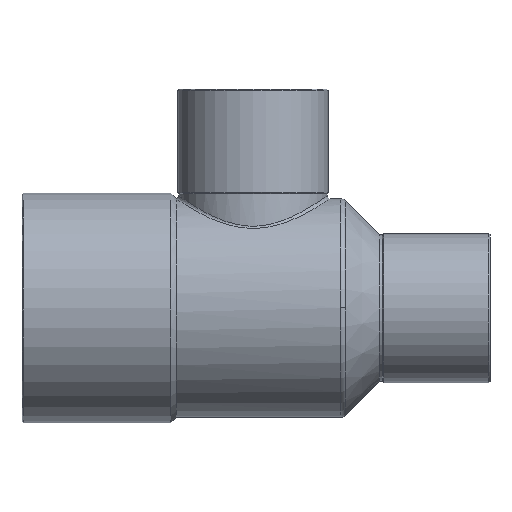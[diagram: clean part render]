
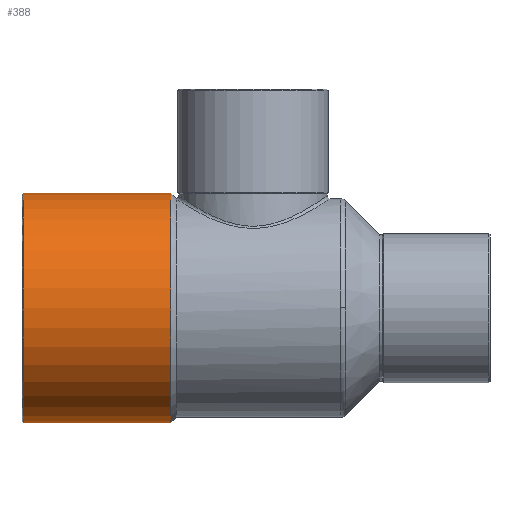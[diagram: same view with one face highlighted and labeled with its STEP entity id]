
A CAD part, top view. The second image highlights one B-rep face of the part: STEP entity #388.
In plain terms, the highlighted cylindrical face has radius 18.875 mm (diameter 37.75 mm), a partial arc.
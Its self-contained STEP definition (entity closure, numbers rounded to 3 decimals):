
#303=CARTESIAN_POINT('',(-13.503,18.875,0.0));
#304=VERTEX_POINT('',#303);
#313=CARTESIAN_POINT('',(-13.503,-18.875,0.));
#314=VERTEX_POINT('',#313);
#315=CARTESIAN_POINT('',(-13.503,0.0,0.0));
#316=DIRECTION('',(1.0,0.0,0.0));
#317=DIRECTION('',(0.0,1.0,0.0));
#318=AXIS2_PLACEMENT_3D('',#315,#316,#317);
#319=CIRCLE('',#318,18.875);
#320=EDGE_CURVE('',#304,#314,#319,.T.);
#357=CARTESIAN_POINT('',(-25.751,0.0,0.0));
#358=DIRECTION('',(1.0,0.0,0.0));
#359=DIRECTION('',(0.0,1.0,0.0));
#360=AXIS2_PLACEMENT_3D('',#357,#358,#359);
#361=CYLINDRICAL_SURFACE('',#360,18.875);
#362=CARTESIAN_POINT('',(-37.8,18.875,0.));
#363=VERTEX_POINT('',#362);
#364=CARTESIAN_POINT('',(-37.8,18.875,0.));
#365=DIRECTION('',(1.0,0.0,0.0));
#366=VECTOR('',#365,24.297);
#367=LINE('',#364,#366);
#368=EDGE_CURVE('',#363,#304,#367,.T.);
#369=ORIENTED_EDGE('',*,*,#368,.F.);
#370=CARTESIAN_POINT('',(-37.8,-18.875,0.));
#371=VERTEX_POINT('',#370);
#372=CARTESIAN_POINT('',(-37.8,0.0,0.0));
#373=DIRECTION('',(-1.0,0.0,0.0));
#374=DIRECTION('',(0.0,-1.0,0.0));
#375=AXIS2_PLACEMENT_3D('',#372,#373,#374);
#376=CIRCLE('',#375,18.875);
#377=EDGE_CURVE('',#371,#363,#376,.T.);
#378=ORIENTED_EDGE('',*,*,#377,.F.);
#379=CARTESIAN_POINT('',(-13.503,-18.875,0.));
#380=DIRECTION('',(-1.0,0.0,0.0));
#381=VECTOR('',#380,24.297);
#382=LINE('',#379,#381);
#383=EDGE_CURVE('',#314,#371,#382,.T.);
#384=ORIENTED_EDGE('',*,*,#383,.F.);
#385=ORIENTED_EDGE('',*,*,#320,.F.);
#386=EDGE_LOOP('',(#369,#378,#384,#385));
#387=FACE_OUTER_BOUND('',#386,.T.);
#388=ADVANCED_FACE('',(#387),#361,.T.);
